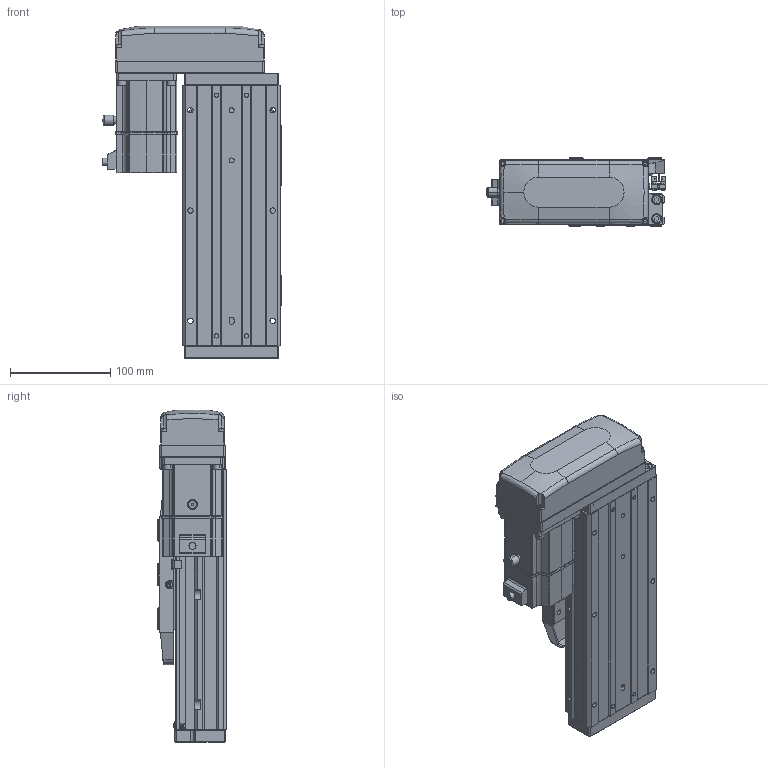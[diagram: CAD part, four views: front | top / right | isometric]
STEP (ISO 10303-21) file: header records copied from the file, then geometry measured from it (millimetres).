
FILE_DESCRIPTION (( 'STEP AP203' ), '1' );
FILE_NAME ('CTHA100-50-BL-M20-C4L.step', '2022-07-06T09:08:53', ( '微软用户' ), ( '微软中国' ), 'SwSTEP 2.0', 'SolidWorks 2020', '' );
FILE_SCHEMA (( 'CONFIG_CONTROL_DESIGN' ));
Length unit declared in the file: millimetre
Products named in the file (19): CTHA60-021; CTHA100-031; KTHA100-001_260; GBT77-2000 M3×3; CTHA86-030; KTHA100-004; GBT 70.1-M3℅6; GBT 70.3-M3℅6; KTHA100-005; GBT70.1 M5℅16; CTHA86-015-1_CTHA86-015-2; GB¨uT 70.2-M3¡Á5_M3¡Á6; CTHA60-016; CTHA86-033; EE_SX911P_R; _X2_4E0983F1_X0_200W_1; CTHA100-50-BL-M20-C4L; CTHA60-017; CTHA100-002
Assembly tree (64 placements, depth 2):
  CTHA100-50-BL-M20-C4L
    KTHA100-001_260
    KTHA100-004
    KTHA100-005
    GB¨uT 70.2-M3¡Á5_M3¡Á6  x10
    EE_SX911P_R  x3
    CTHA60-017  x3
    CTHA60-021  x2
    GBT77-2000 M3×3  x6
    GBT 70.1-M3℅6  x10
    GBT70.1 M5℅16  x14
    CTHA60-016  x2
    _X2_4E0983F1_X0_200W_1
    CTHA100-002
    CTHA100-031
    CTHA86-030  x2
    GBT 70.3-M3℅6  x4
    CTHA86-015-1_CTHA86-015-2
    CTHA86-033
Bounding box: 178.52 x 68 x 331 mm (x, y, z)
Volume: 1916097.9 mm3; surface area: 356189.5 mm2
Topology: 66 solids, 66 shells, 2569 faces, 6135 edges, 3796 vertices
Faces by surface type: plane 1332, cylinder 671, cone 343, torus 124, bspline 75, sphere 24
Entity records: 42762 total; most frequent: CARTESIAN_POINT 8475, DIRECTION 6544, ORIENTED_EDGE 6386, EDGE_CURVE 3193, AXIS2_PLACEMENT_3D 2237, VECTOR 2070, LINE 2070, VERTEX_POINT 2016
